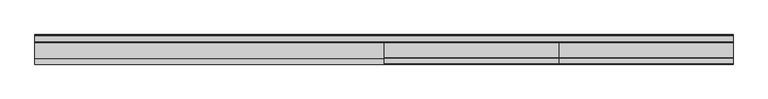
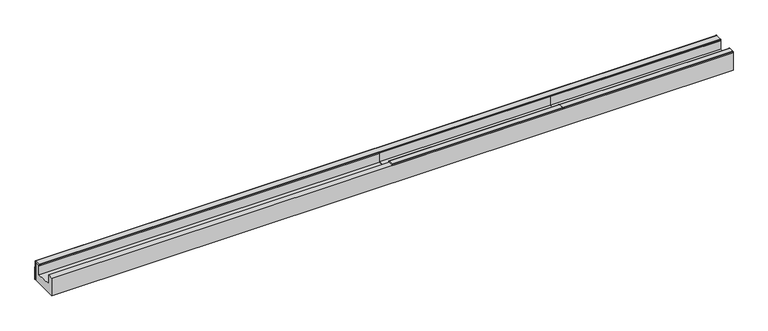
"""IFC4 building model written with IfcOpenShell, lengths in millimetres: proxy geometry, Weiku - Montante - Caixilho duplo 02.2.01.002 : Weiku - Montante - Caixilho duplo 02.2.01.002."""

from ifc_helpers import new_model, si_unit, point, frame, frame_2d, origin, place, context, project, spatial, polyline, circle_curve, trimmed, segment, composite_curve, outline, extrude, source, transform, mapped, element, save


def generic_models_7e31076c(model_context):
    return source(origin(), model_context, "Body", "SweptSolid", [
        extrude(outline(composite_curve([segment(polyline([(15.0, 52.0), (0.0, 52.0), (0.0, 55.0)]), True, "CONTINUOUS"), segment(trimmed(circle_curve(frame_2d((1.0, 55.0)), 1.0), [point((0.0, 55.0))], [point((1.0, 56.0))], False, "CARTESIAN"), True, "CONTINUOUS"), segment(polyline([(1.0, 56.0), (16.0, 56.0)]), True, "CONTINUOUS"), segment(trimmed(circle_curve(frame_2d((16.0, 55.0)), 1.0), [point((16.0, 56.0))], [point((17.0, 55.0))], False, "CARTESIAN"), True, "CONTINUOUS"), segment(polyline([(17.0, 55.0), (17.0, 28.908759), (60.0, 26.8749739), (60.0, 52.0), (62.0, 52.0), (62.0, 23.7770256), (15.0, 26.0), (15.0, 52.0)]), True, "CONTINUOUS")], self_intersect=False)), frame((0.0, 0.0, 0.0), z_axis=(1.0, 0.0, 0.0), x_axis=(0.0, 1.0, 0.0)), (0.0, 0.0, 1.0), 476.5),
        extrude(outline(composite_curve([segment(polyline([(15.0, 52.0), (0.0, 52.0), (0.0, 55.0)]), True, "CONTINUOUS"), segment(trimmed(circle_curve(frame_2d((1.0, 55.0)), 1.0), [point((0.0, 55.0))], [point((1.0, 56.0))], False, "CARTESIAN"), True, "CONTINUOUS"), segment(polyline([(1.0, 56.0), (16.0, 56.0)]), True, "CONTINUOUS"), segment(trimmed(circle_curve(frame_2d((16.0, 55.0)), 1.0), [point((16.0, 56.0))], [point((17.0, 55.0))], False, "CARTESIAN"), True, "CONTINUOUS"), segment(polyline([(17.0, 55.0), (17.0, 28.908759), (60.0, 26.8749739), (60.0, 52.0), (62.0, 52.0), (62.0, 23.7770256), (15.0, 26.0), (15.0, 52.0)]), True, "CONTINUOUS")], self_intersect=False)), frame((476.5, 0.0, 0.0), z_axis=(1.0, 0.0, 0.0), x_axis=(0.0, 1.0, 0.0)), (0.0, 0.0, 1.0), 476.5),
        extrude(outline(composite_curve([segment(polyline([(77.0, 0.0), (77.0, 52.0), (60.0, 52.0), (60.0, 55.0)]), True, "CONTINUOUS"), segment(trimmed(circle_curve(frame_2d((61.0, 55.0)), 1.0), [point((60.0, 55.0))], [point((61.0, 56.0))], False, "CARTESIAN"), True, "CONTINUOUS"), segment(polyline([(61.0, 56.0), (78.0, 56.0)]), True, "CONTINUOUS"), segment(trimmed(circle_curve(frame_2d((78.0, 55.0)), 1.0), [point((78.0, 56.0))], [point((79.0, 55.0))], False, "CARTESIAN"), True, "CONTINUOUS"), segment(polyline([(79.0, 55.0), (79.0, 41.0)]), True, "CONTINUOUS"), segment(trimmed(circle_curve(frame_2d((84.0, 41.0)), 5.0), [point((79.0, 41.0))], [point((80.0, 38.0))], True, "CARTESIAN"), True, "CONTINUOUS"), segment(trimmed(circle_curve(frame_2d((76.0, 35.0)), 5.0), [point((80.0, 38.0))], [point((81.0, 35.0))], False, "CARTESIAN"), True, "CONTINUOUS"), segment(polyline([(81.0, 35.0), (81.0, 0.0), (77.0, 0.0)]), True, "CONTINUOUS")], self_intersect=False)), frame((-953.0, 0.0, 0.0), z_axis=(1.0, 0.0, 0.0), x_axis=(0.0, 1.0, 0.0)), (0.0, 0.0, 1.0), 1906.0),
        extrude(outline(polyline([(15.0, 52.0), (15.0, 26.0), (62.0, 23.7770256), (62.0, 52.0), (77.0, 52.0), (77.0, 0.0), (0.0, 0.0), (0.0, 52.0), (15.0, 52.0)])), frame((-953.0, 0.0, 0.0), z_axis=(1.0, 0.0, 0.0), x_axis=(0.0, 1.0, 0.0)), (0.0, 0.0, 1.0), 1906.0),
    ])


if __name__ == "__main__":
    model = new_model("IFC4")
    model_context = context("Model", 3, world=origin())
    ifc_project = project(units=[si_unit("LENGTHUNIT", "METRE", prefix="MILLI")], contexts=[model_context])
    site = spatial("IfcSite", under=ifc_project)
    building = spatial("IfcBuilding", under=site)
    placement = place(None, origin())
    generic_models_shape = generic_models_7e31076c(model_context)
    element("IfcBuildingElementProxy", 1, Name="Weiku - Montante - Caixilho duplo 02.2.01.002 : Weiku - Montante - Caixilho duplo 02.2.01.002", ObjectType="Weiku - Montante - Caixilho duplo 02.2.01.002 : Weiku - Montante - Caixilho duplo 02.2.01.002", at=placement, inside=building, context=model_context, shape_type="MappedRepresentation", body=[
        mapped(generic_models_shape, transform((0.0, 0.0, 0.0), x_axis=(1.0, 0.0, 0.0), y_axis=(0.0, 1.0, 0.0), z_axis=(0.0, 0.0, 1.0))),
    ])
    save(model, "model.ifc")
